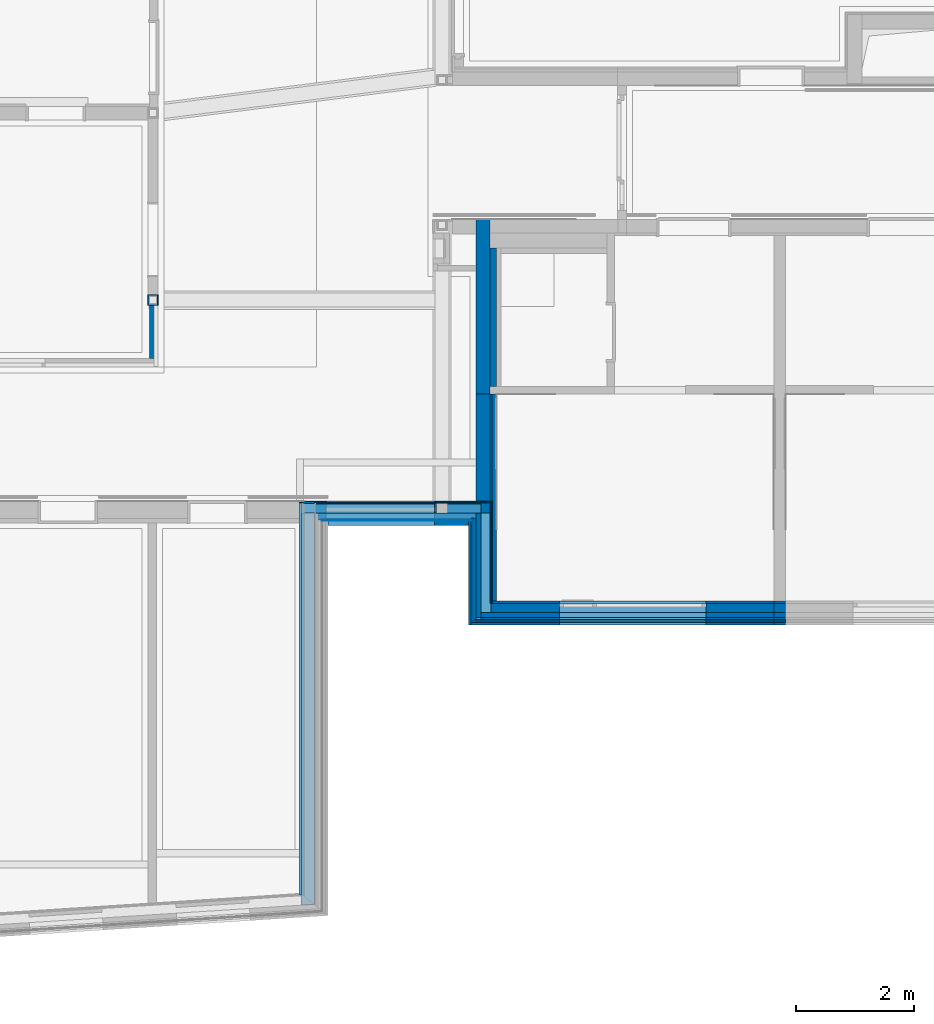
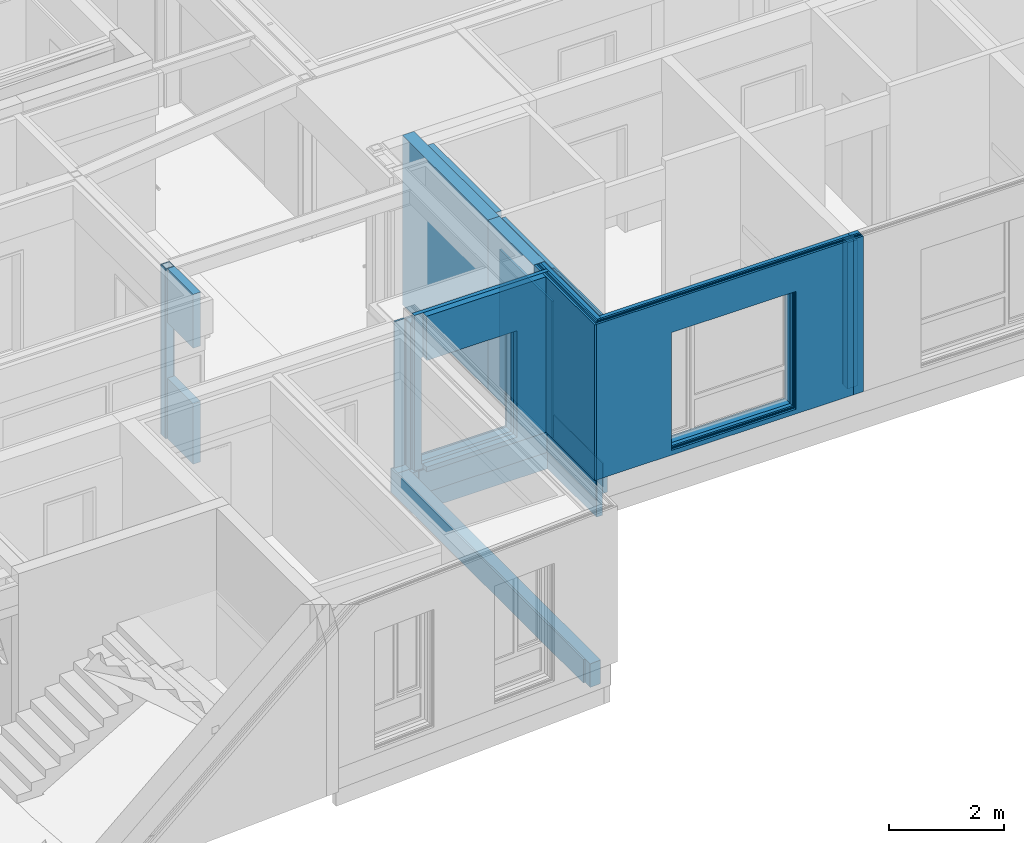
# One storey, part 43 of 207: 48 walls, 13 openings.
"""IFC4 building model written with IfcOpenShell, lengths in metres."""

from ifc_helpers import new_model, entity, si_unit, converted_unit, derived_unit, frame, frame_2d, origin, origin_with_axes, place, context, subcontext, project, spatial, polyline, rectangle, outline, extrude, clip, bounded_halfspace, material, element, save


model = new_model("IFC4")

# Units and contexts
model_context = context("Model", 3, precision=1e-05, world=origin())
body_context = subcontext(model_context, "Body", "Model", "MODEL_VIEW")
ifc_project = project(units=[si_unit("LENGTHUNIT", "METRE"), si_unit("AREAUNIT", "SQUARE_METRE"), si_unit("VOLUMEUNIT", "CUBIC_METRE"), si_unit("MASSUNIT", "GRAM", prefix="KILO"), converted_unit("PLANEANGLEUNIT", "DEGREE", entity("IfcPlaneAngleMeasure", 0.0174532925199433), si_unit("PLANEANGLEUNIT", "RADIAN"), dimensions=[0, 0, 0, 0, 0, 0, 0]), derived_unit("THERMALTRANSMITTANCEUNIT", [(si_unit("POWERUNIT", "WATT"), 1), (si_unit("THERMODYNAMICTEMPERATUREUNIT", "KELVIN"), -1), (si_unit("LENGTHUNIT", "METRE"), -2)]), derived_unit("VOLUMETRICFLOWRATEUNIT", [(si_unit("LENGTHUNIT", "METRE"), 3), (converted_unit("TIMEUNIT", "hour", entity("IfcTimeMeasure", 3600.0), si_unit("TIMEUNIT", "SECOND"), dimensions=[0, 0, 1, 0, 0, 0, 0]), -1), (si_unit("LENGTHUNIT", "METRE"), -1)])], contexts=[model_context])

# Site, building, storey
site_placement = place(None, origin())
site = spatial("IfcSite", under=ifc_project, at=site_placement, Name="Psychiatrie Neubau Wunstorf", CompositionType="ELEMENT")
building_placement = place(site_placement, origin())
building = spatial("IfcBuilding", under=site, at=building_placement, Name="Neubau H2 Stationsgebäude", CompositionType="ELEMENT")
storey_placement = place(building_placement, frame((0.0, 0.0, -0.2)))
storey = spatial("IfcBuildingStorey", under=building, at=storey_placement, Name="H2 Ebene 0", CompositionType="ELEMENT", Elevation=-0.2)

# Walls
ifc_material_1 = material(Name="WA-LB")
wall_1_placement = place(storey_placement, frame((68.0875, 0.536002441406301, 0.5), z_axis=(0.0, 0.0, 1.0), x_axis=(-1.0, 0.0, 0.0)))
element("IfcWall", 1, at=wall_1_placement, inside=storey, material=ifc_material_1, context=body_context, shape_type="SweptSolid", body=[
    extrude(rectangle(XDim=0.199, YDim=0.036, at=frame_2d((0.0995, 0.018), x_axis=(1.0, 0.0))), origin_with_axes(), (0.0, 0.0, 1.0), 3.1),
])
ifc_material_2 = material(Name="WA-LB")
wall_2_placement = place(storey_placement, frame((76.1, -1.16399999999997, 0.5), z_axis=(0.0, 0.0, 1.0), x_axis=(-1.0, 0.0, 0.0)))
element("IfcWall", 2, at=wall_2_placement, inside=storey, material=ifc_material_2, context=body_context, shape_type="SweptSolid", body=[
    extrude(rectangle(XDim=0.2, YDim=0.036, at=frame_2d((0.1, 0.018), x_axis=(1.0, 0.0))), origin_with_axes(), (0.0, 0.0, 1.0), 3.1),
])
ifc_material_3 = material(Name="WA-HD")
wall_3_placement = place(storey_placement, frame((76.1, -1.19999999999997, 0.5), z_axis=(0.0, 0.0, 1.0), x_axis=(-1.0, 0.0, 0.0)))
element("IfcWall", 3, at=wall_3_placement, inside=storey, material=ifc_material_3, context=body_context, shape_type="SweptSolid", body=[
    extrude(rectangle(XDim=0.2, YDim=0.16, at=frame_2d((0.1, 0.08), x_axis=(1.0, 0.0))), origin_with_axes(), (0.0, 0.0, 1.0), 3.1),
])
ifc_material_4 = material(Name="WA-DL")
wall_4_placement = place(storey_placement, frame((76.1, -1.35999999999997, 0.5), z_axis=(0.0, 0.0, 1.0), x_axis=(-1.0, 0.0, 0.0)))
element("IfcWall", 4, at=wall_4_placement, inside=storey, material=ifc_material_4, context=body_context, shape_type="SweptSolid", body=[
    extrude(rectangle(XDim=0.2, YDim=0.08, at=frame_2d((0.1, 0.04), x_axis=(1.0, 0.0))), origin_with_axes(), (0.0, 0.0, 1.0), 3.3),
])
ifc_material_5 = material(Name="WA-TP")
wall_5_placement = place(storey_placement, frame((76.1, -1.43999999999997, 0.5), z_axis=(0.0, 0.0, 1.0), x_axis=(-1.0, 0.0, 0.0)))
element("IfcWall", 5, at=wall_5_placement, inside=storey, material=ifc_material_5, context=body_context, shape_type="SweptSolid", body=[
    extrude(rectangle(XDim=0.2, YDim=0.036, at=frame_2d((0.1, 0.018), x_axis=(1.0, 0.0))), origin_with_axes(), (0.0, 0.0, 1.0), 3.3),
])
ifc_material_6 = material(Name="WA-KL")
wall_6_placement = place(storey_placement, frame((76.1, -1.47599999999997, 0.5), z_axis=(0.0, 0.0, 1.0), x_axis=(-1.0, 0.0, 0.0)))
element("IfcWall", 6, at=wall_6_placement, inside=storey, material=ifc_material_6, context=body_context, shape_type="SweptSolid", body=[
    extrude(rectangle(XDim=0.2, YDim=0.024, at=frame_2d((0.1, 0.012), x_axis=(1.0, 0.0))), origin_with_axes(), (0.0, 0.0, 1.0), 3.3),
])
ifc_material_7 = material(Name="WA-TL")
wall_7_placement = place(storey_placement, frame((76.1, -1.49999999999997, 0.5), z_axis=(0.0, 0.0, 1.0), x_axis=(-1.0, 0.0, 0.0)))
element("IfcWall", 7, at=wall_7_placement, inside=storey, material=ifc_material_7, context=body_context, shape_type="SweptSolid", body=[
    extrude(rectangle(XDim=0.2, YDim=0.024, at=frame_2d((0.1, 0.012), x_axis=(1.0, 0.0))), origin_with_axes(), (0.0, 0.0, 1.0), 3.3),
])
ifc_material_8 = material(Name="WA-HS")
wall_8_placement = place(storey_placement, frame((76.1, -1.52399999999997, 0.5), z_axis=(0.0, 0.0, 1.0), x_axis=(-1.0, 0.0, 0.0)))
element("IfcWall", 8, at=wall_8_placement, inside=storey, material=ifc_material_8, context=body_context, shape_type="SweptSolid", body=[
    extrude(rectangle(XDim=0.2, YDim=0.042, at=frame_2d((0.1, 0.021), x_axis=(1.0, 0.0))), origin_with_axes(), (0.0, 0.0, 1.0), 3.3),
])

# Wall, opening
ifc_material_9 = material(Name="WA-LB")
wall_9_placement = place(storey_placement, frame((75.9, -1.16399999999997, 0.5), z_axis=(0.0, 0.0, 1.0), x_axis=(-1.0, -1.5193062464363e-15, 0.0)))
wall_9 = element("IfcWall", 9, at=wall_9_placement, inside=storey, material=ifc_material_9, context=body_context, shape_type="SweptSolid", body=[
    extrude(rectangle(XDim=4.78899999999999, YDim=0.036, at=frame_2d((2.39449999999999, 0.018), x_axis=(1.0, 0.0))), origin_with_axes(), (0.0, 0.0, 1.0), 3.1),
])
opening_1_placement = place(wall_9_placement, frame((1.14999995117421, 0.0, 0.1), z_axis=(0.0, 1.0, 0.0), x_axis=(0.0, 0.0, 1.0)))
element("IfcOpeningElement", 10, at=opening_1_placement, cuts=wall_9, Name="Fensteröffnung", ObjectType="Opening", context=body_context, shape_type="SweptSolid", body=[
    extrude(outline(polyline([(2.5, 2.5), (2.5, 0.0), (0.0, 0.0), (0.0, 2.5), (2.5, 2.5)])), origin_with_axes(), (0.0, 0.0, 1.0), 0.036),
])

ifc_material_10 = material(Name="WA-HD")
wall_10_placement = place(storey_placement, frame((75.9, -1.19999999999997, 0.5), z_axis=(0.0, 0.0, 1.0), x_axis=(-1.0, -1.50797048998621e-15, 0.0)))
wall_10 = element("IfcWall", 11, at=wall_10_placement, inside=storey, material=ifc_material_10, context=body_context, shape_type="SweptSolid", body=[
    extrude(rectangle(XDim=4.82499999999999, YDim=0.16, at=frame_2d((2.41249999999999, 0.08), x_axis=(1.0, 0.0))), origin_with_axes(), (0.0, 0.0, 1.0), 3.1),
])
opening_2_placement = place(wall_10_placement, frame((1.14999995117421, 0.0, 0.1), z_axis=(1.4210854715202e-15, 1.0, 0.0), x_axis=(0.0, 0.0, 1.0)))
element("IfcOpeningElement", 12, at=opening_2_placement, cuts=wall_10, Name="Fensteröffnung", ObjectType="Opening", context=body_context, shape_type="SweptSolid", body=[
    extrude(outline(polyline([(2.5, 2.5), (2.5, 0.0), (0.0, 0.0), (0.0, 2.5), (2.5, 2.5)])), origin_with_axes(), (0.0, 0.0, 1.0), 0.16),
])

ifc_material_11 = material(Name="WA-DL")
wall_11_placement = place(storey_placement, frame((75.9, -1.35999999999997, 0.5), z_axis=(0.0, 0.0, 1.0), x_axis=(-1.0, -1.50518180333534e-15, 0.0)))
wall_11 = element("IfcWall", 13, at=wall_11_placement, inside=storey, material=ifc_material_11, context=body_context, shape_type="SweptSolid", body=[
    extrude(rectangle(XDim=4.98499999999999, YDim=0.08, at=frame_2d((2.49249999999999, 0.04), x_axis=(1.0, 0.0))), origin_with_axes(), (0.0, 0.0, 1.0), 3.3),
])
opening_3_placement = place(wall_11_placement, frame((1.14999995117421, 0.0, 0.1), z_axis=(2.8421709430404e-15, 1.0, 0.0), x_axis=(0.0, 0.0, 1.0)))
element("IfcOpeningElement", 14, at=opening_3_placement, cuts=wall_11, Name="Fensteröffnung", ObjectType="Opening", context=body_context, shape_type="SweptSolid", body=[
    extrude(outline(polyline([(2.5, 2.5), (2.5, 0.0), (0.0, 0.0), (0.0, 2.5), (2.5, 2.5)])), origin_with_axes(), (0.0, 0.0, 1.0), 0.08),
])

ifc_material_12 = material(Name="WA-TP")
wall_12_placement = place(storey_placement, frame((75.9, -1.43999999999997, 0.5), z_axis=(0.0, 0.0, 1.0), x_axis=(-1.0, -1.52629910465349e-15, 0.0)))
wall_12 = element("IfcWall", 15, at=wall_12_placement, inside=storey, material=ifc_material_12, context=body_context, shape_type="SweptSolid", body=[
    extrude(rectangle(XDim=5.06499999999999, YDim=0.036, at=frame_2d((2.53249999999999, 0.018), x_axis=(1.0, 0.0))), origin_with_axes(), (0.0, 0.0, 1.0), 3.3),
])
opening_4_placement = place(wall_12_placement, frame((1.14999995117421, 0.0, 0.1), z_axis=(0.0, 1.0, 0.0), x_axis=(0.0, 0.0, 1.0)))
element("IfcOpeningElement", 16, at=opening_4_placement, cuts=wall_12, Name="Fensteröffnung", ObjectType="Opening", context=body_context, shape_type="SweptSolid", body=[
    extrude(outline(polyline([(2.5, 2.5), (2.5, 0.0), (0.0, 0.0), (0.0, 2.5), (2.5, 2.5)])), origin_with_axes(), (0.0, 0.0, 1.0), 0.036),
])

ifc_material_13 = material(Name="WA-KL")
wall_13_placement = place(storey_placement, frame((75.9, -1.47599999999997, 0.5), z_axis=(0.0, 0.0, 1.0), x_axis=(-1.0, -1.51552734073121e-15, 0.0)))
wall_13 = element("IfcWall", 17, at=wall_13_placement, inside=storey, material=ifc_material_13, context=body_context, shape_type="SweptSolid", body=[
    extrude(rectangle(XDim=5.10099999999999, YDim=0.024, at=frame_2d((2.55049999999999, 0.012), x_axis=(1.0, 0.0))), origin_with_axes(), (0.0, 0.0, 1.0), 3.3),
])
opening_5_placement = place(wall_13_placement, frame((1.14999995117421, 0.0, 0.1), z_axis=(0.0, 1.0, 0.0), x_axis=(0.0, 0.0, 1.0)))
element("IfcOpeningElement", 18, at=opening_5_placement, cuts=wall_13, Name="Fensteröffnung", ObjectType="Opening", context=body_context, shape_type="SweptSolid", body=[
    extrude(outline(polyline([(2.5, 2.5), (2.5, 0.0), (0.0, 0.0), (0.0, 2.5), (2.5, 2.5)])), origin_with_axes(), (0.0, 0.0, 1.0), 0.024),
])

ifc_material_14 = material(Name="WA-TL")
wall_14_placement = place(storey_placement, frame((75.9, -1.49999999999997, 0.5), z_axis=(0.0, 0.0, 1.0), x_axis=(-1.0, -1.50843023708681e-15, 0.0)))
wall_14 = element("IfcWall", 19, at=wall_14_placement, inside=storey, material=ifc_material_14, context=body_context, shape_type="SweptSolid", body=[
    extrude(rectangle(XDim=5.12499999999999, YDim=0.024, at=frame_2d((2.56249999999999, 0.012), x_axis=(1.0, 0.0))), origin_with_axes(), (0.0, 0.0, 1.0), 3.3),
])
opening_6_placement = place(wall_14_placement, frame((1.14999995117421, 0.0, 0.1), z_axis=(0.0, 1.0, 0.0), x_axis=(0.0, 0.0, 1.0)))
element("IfcOpeningElement", 20, at=opening_6_placement, cuts=wall_14, Name="Fensteröffnung", ObjectType="Opening", context=body_context, shape_type="SweptSolid", body=[
    extrude(outline(polyline([(2.5, 2.5), (2.5, 0.0), (0.0, 0.0), (0.0, 2.5), (2.5, 2.5)])), origin_with_axes(), (0.0, 0.0, 1.0), 0.024),
])

ifc_material_15 = material(Name="WA-HS")
wall_15_placement = place(storey_placement, frame((75.9, -1.52399999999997, 0.5), z_axis=(0.0, 0.0, 1.0), x_axis=(-1.0, -1.50139929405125e-15, 0.0)))
wall_15 = element("IfcWall", 21, at=wall_15_placement, inside=storey, material=ifc_material_15, context=body_context, shape_type="SweptSolid", body=[
    extrude(rectangle(XDim=5.14899999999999, YDim=0.042, at=frame_2d((2.57449999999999, 0.021), x_axis=(1.0, 0.0))), origin_with_axes(), (0.0, 0.0, 1.0), 3.3),
])
opening_7_placement = place(wall_15_placement, frame((1.14999995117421, 0.0, 0.1), z_axis=(0.0, 1.0, 0.0), x_axis=(0.0, 0.0, 1.0)))
element("IfcOpeningElement", 22, at=opening_7_placement, cuts=wall_15, Name="Fensteröffnung", ObjectType="Opening", context=body_context, shape_type="SweptSolid", body=[
    extrude(outline(polyline([(2.5, 2.5), (2.5, 0.0), (0.0, 0.0), (0.0, 2.5), (2.5, 2.5)])), origin_with_axes(), (0.0, 0.0, 1.0), 0.042),
])

# Walls
ifc_material_16 = material(Name="WA-LB")
wall_16_placement = place(storey_placement, frame((71.111, -1.19999999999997, 0.5), z_axis=(0.0, 0.0, 1.0), x_axis=(0.0, 1.0, 0.0)))
element("IfcWall", 23, at=wall_16_placement, inside=storey, material=ifc_material_16, context=body_context, shape_type="SweptSolid", body=[
    extrude(rectangle(XDim=1.73600244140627, YDim=0.036, at=frame_2d((0.868001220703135, 0.018), x_axis=(1.0, 0.0))), origin_with_axes(), (0.0, 0.0, 1.0), 3.1),
])
ifc_material_17 = material(Name="WA-HD")
wall_17_placement = place(storey_placement, frame((71.075, -1.35999999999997, 0.5), z_axis=(0.0, 0.0, 1.0), x_axis=(0.0, 1.0, 0.0)))
element("IfcWall", 24, at=wall_17_placement, inside=storey, material=ifc_material_17, context=body_context, shape_type="SweptSolid", body=[
    extrude(rectangle(XDim=1.89600244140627, YDim=0.16, at=frame_2d((0.948001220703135, 0.08), x_axis=(1.0, 0.0))), origin_with_axes(), (0.0, 0.0, 1.0), 3.1),
])
ifc_material_18 = material(Name="WA-DL")
wall_18_placement = place(storey_placement, frame((70.915, -1.43999999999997, 0.5), z_axis=(0.0, 0.0, 1.0), x_axis=(0.0, 1.0, 0.0)))
element("IfcWall", 25, at=wall_18_placement, inside=storey, material=ifc_material_18, context=body_context, shape_type="Clipping", body=[
    clip(extrude(rectangle(XDim=1.97600244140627, YDim=0.08, at=frame_2d((0.988001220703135, 0.04), x_axis=(1.0, 0.0))), origin_with_axes(), (0.0, 0.0, 1.0), 3.3), bounded_halfspace(frame((1.84750244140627, 0.04, 3.1), z_axis=(0.0, 0.0, 1.0), x_axis=(0.0, 1.0, 0.0)), True, origin_with_axes(), polyline([(1.92750244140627, 0.0), (1.92750244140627, 0.08), (1.76750244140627, 0.08), (1.76750244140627, 0.0), (1.92750244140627, 0.0)]))),
])
ifc_material_19 = material(Name="WA-TP")
wall_19_placement = place(storey_placement, frame((70.835, -1.47599999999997, 0.5), z_axis=(0.0, 0.0, 1.0), x_axis=(0.0, 1.0, 0.0)))
element("IfcWall", 26, at=wall_19_placement, inside=storey, material=ifc_material_19, context=body_context, shape_type="Clipping", body=[
    clip(extrude(rectangle(XDim=1.72350294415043, YDim=0.036, at=frame_2d((0.861751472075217, 0.018), x_axis=(1.0, 0.0))), origin_with_axes(), (0.0, 0.0, 1.0), 3.3), bounded_halfspace(frame((1.90775244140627, 0.018, 3.1), z_axis=(1.0905212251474e-15, 6.31593542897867e-15, 1.0), x_axis=(0.0, 1.0, 0.0)), True, origin_with_axes(), polyline([(2.01200244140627, 0.0), (2.01200244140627, 0.036), (1.80350244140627, 0.036), (1.80350244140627, 0.0), (2.01200244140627, 0.0)]))),
    clip(extrude(rectangle(XDim=0.2085, YDim=0.036, at=frame_2d((0.10425, 0.018), x_axis=(1.0, 0.0))), frame((1.80350244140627, 0.0, 0.0), z_axis=(0.0, 0.0, 1.0), x_axis=(1.0, 0.0, 0.0)), (0.0, 0.0, 1.0), 3.3), bounded_halfspace(frame((1.90775244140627, 0.018, 3.1), z_axis=(1.0905212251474e-15, 6.31593542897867e-15, 1.0), x_axis=(0.0, 1.0, 0.0)), True, origin_with_axes(), polyline([(2.01200244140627, 0.0), (2.01200244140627, 0.036), (1.80350244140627, 0.036), (1.80350244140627, 0.0), (2.01200244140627, 0.0)]))),
])
ifc_material_20 = material(Name="WA-KL")
wall_20_placement = place(storey_placement, frame((70.799, -1.49999999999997, 0.5), z_axis=(0.0, 0.0, 1.0), x_axis=(0.0, 1.0, 0.0)))
element("IfcWall", 27, at=wall_20_placement, inside=storey, material=ifc_material_20, context=body_context, shape_type="Clipping", body=[
    clip(extrude(rectangle(XDim=1.74750294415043, YDim=0.024, at=frame_2d((0.873751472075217, 0.012), x_axis=(1.0, 0.0))), origin_with_axes(), (0.0, 0.0, 1.0), 3.3), bounded_halfspace(frame((1.93175244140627, 0.012, 3.1), z_axis=(1.0905212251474e-15, 9.473903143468e-15, 1.0), x_axis=(1.0, 0.0, -2.18104245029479e-15)), True, origin_with_axes(), polyline([(1.82750244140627, 0.0), (2.03600244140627, 0.0), (2.03600244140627, 0.024), (1.82750244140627, 0.024), (1.82750244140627, 0.0)]))),
    clip(extrude(rectangle(XDim=0.2085, YDim=0.024, at=frame_2d((0.10425, 0.012), x_axis=(1.0, 0.0))), frame((1.82750244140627, 0.0, 0.0), z_axis=(0.0, 0.0, 1.0), x_axis=(1.0, 0.0, 0.0)), (0.0, 0.0, 1.0), 3.3), bounded_halfspace(frame((1.93175244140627, 0.012, 3.1), z_axis=(1.0905212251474e-15, 9.473903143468e-15, 1.0), x_axis=(1.0, 0.0, -2.18104245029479e-15)), True, origin_with_axes(), polyline([(1.82750244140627, 0.0), (2.03600244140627, 0.0), (2.03600244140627, 0.024), (1.82750244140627, 0.024), (1.82750244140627, 0.0)]))),
])
ifc_material_21 = material(Name="WA-TL")
wall_21_placement = place(storey_placement, frame((70.775, -1.52399999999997, 0.5), z_axis=(0.0, 0.0, 1.0), x_axis=(0.0, 1.0, 0.0)))
element("IfcWall", 28, at=wall_21_placement, inside=storey, material=ifc_material_21, context=body_context, shape_type="Clipping", body=[
    clip(extrude(rectangle(XDim=1.77150294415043, YDim=0.024, at=frame_2d((0.885751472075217, 0.012), x_axis=(1.0, 0.0))), origin_with_axes(), (0.0, 0.0, 1.0), 3.3), bounded_halfspace(frame((1.95575244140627, 0.012, 3.1), z_axis=(-1.0905212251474e-15, 9.473903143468e-15, 1.0), x_axis=(1.0, 0.0, 2.18104245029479e-15)), True, origin_with_axes(), polyline([(1.85150244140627, 0.0), (2.06000244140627, 0.0), (2.06000244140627, 0.024), (1.85150244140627, 0.024), (1.85150244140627, 0.0)]))),
    clip(extrude(rectangle(XDim=0.024, YDim=0.2085, at=frame_2d((-0.10425, 0.012), x_axis=(0.0, 1.0))), frame((2.06000244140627, 0.0, 0.0), z_axis=(0.0, 0.0, 1.0), x_axis=(1.0, 0.0, 0.0)), (0.0, 0.0, 1.0), 3.3), bounded_halfspace(frame((1.95575244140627, 0.012, 3.1), z_axis=(-1.0905212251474e-15, 9.473903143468e-15, 1.0), x_axis=(1.0, 0.0, 2.18104245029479e-15)), True, origin_with_axes(), polyline([(1.85150244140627, 0.0), (2.06000244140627, 0.0), (2.06000244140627, 0.024), (1.85150244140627, 0.024), (1.85150244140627, 0.0)]))),
])
ifc_material_22 = material(Name="WA-HS")
wall_22_placement = place(storey_placement, frame((70.751, -1.56599999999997, 0.5), z_axis=(0.0, 0.0, 1.0), x_axis=(0.0, 1.0, 0.0)))
element("IfcWall", 29, at=wall_22_placement, inside=storey, material=ifc_material_22, context=body_context, shape_type="Clipping", body=[
    clip(extrude(rectangle(XDim=1.81350294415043, YDim=0.042, at=frame_2d((0.906751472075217, 0.021), x_axis=(1.0, 0.0))), origin_with_axes(), (0.0, 0.0, 1.0), 3.3), bounded_halfspace(frame((1.99775244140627, 0.021, 3.1), z_axis=(-1.0905212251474e-15, 5.41365893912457e-15, 1.0), x_axis=(0.0, 1.0, -1.08273178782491e-14)), True, origin_with_axes(), polyline([(2.10200244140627, 0.0), (2.10200244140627, 0.042), (1.89350244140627, 0.042), (1.89350244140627, 0.0), (2.10200244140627, 0.0)]))),
    clip(extrude(rectangle(XDim=0.042, YDim=0.2085, at=frame_2d((-0.10425, 0.021), x_axis=(0.0, 1.0))), frame((2.10200244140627, 0.0, 0.0), z_axis=(0.0, 0.0, 1.0), x_axis=(1.0, 0.0, 0.0)), (0.0, 0.0, 1.0), 3.3), bounded_halfspace(frame((1.99775244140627, 0.021, 3.1), z_axis=(-1.0905212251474e-15, 5.41365893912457e-15, 1.0), x_axis=(0.0, 1.0, -1.08273178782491e-14)), True, origin_with_axes(), polyline([(2.10200244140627, 0.0), (2.10200244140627, 0.042), (1.89350244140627, 0.042), (1.89350244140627, 0.0), (2.10200244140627, 0.0)]))),
])
ifc_material_23 = material(Name="WI-GKF")
wall_23_placement = place(storey_placement, frame((70.1289999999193, 0.499996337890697, 0.5), z_axis=(0.0, 0.0, 1.0), x_axis=(0.0, -1.0, 0.0)))
element("IfcWall", 30, at=wall_23_placement, inside=storey, material=ifc_material_23, context=body_context, shape_type="SweptSolid", body=[
    extrude(rectangle(XDim=0.16, YDim=0.036, at=frame_2d((0.08, 0.018), x_axis=(1.0, 0.0))), origin_with_axes(), (0.0, 0.0, 1.0), 3.1),
])

# Wall, opening
ifc_material_24 = material(Name="WA-LB")
wall_24_placement = place(storey_placement, frame((70.835, 0.536002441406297, 0.5), z_axis=(0.0, 0.0, 1.0), x_axis=(-1.0, 3.74997815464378e-16, 0.0)))
wall_24 = element("IfcWall", 31, at=wall_24_placement, inside=storey, material=ifc_material_24, context=body_context, shape_type="SweptSolid", body=[
    extrude(rectangle(XDim=2.72849999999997, YDim=0.0125, at=frame_2d((1.36424999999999, 0.00625), x_axis=(1.0, 0.0))), origin_with_axes(), (0.0, 0.0, 1.0), 3.1),
])
opening_8_placement = place(wall_24_placement, frame((2.55400500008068, 0.0125, 0.1), z_axis=(0.0, -1.0, 0.0), x_axis=(0.0, 0.0, 1.0)))
element("IfcOpeningElement", 32, at=opening_8_placement, cuts=wall_24, Name="Fensteröffnung", ObjectType="Opening", context=body_context, shape_type="SweptSolid", body=[
    extrude(outline(polyline([(2.26, 1.848005), (2.26, 0.0), (0.0, 0.0), (0.0, 1.848005), (2.26, 1.848005)])), origin_with_axes(), (0.0, 0.0, 1.0), 0.0125),
])

ifc_material_25 = material(Name="WA-LB")
wall_25_placement = place(storey_placement, frame((70.835, 0.523502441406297, 0.5), z_axis=(0.0, 0.0, 1.0), x_axis=(-1.0, 3.74997815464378e-16, 0.0)))
wall_25 = element("IfcWall", 33, at=wall_25_placement, inside=storey, material=ifc_material_25, context=body_context, shape_type="SweptSolid", body=[
    extrude(outline(polyline([(-2.72849999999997, -0.0360000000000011), (0.0, -0.0360000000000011), (0.0, 0.0), (-2.0224999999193, 0.0), (-2.0224999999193, -0.0124938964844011), (-2.0584999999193, -0.0124938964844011), (-2.0584999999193, -0.0125000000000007), (-2.23849999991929, -0.0125000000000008), (-2.23849999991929, 0.0), (-2.72849999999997, 0.0), (-2.72849999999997, -0.0360000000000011)])), frame((2.72849999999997, 0.0360000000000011, 0.0), z_axis=(0.0, 0.0, 1.0), x_axis=(1.0, 0.0, 0.0)), (0.0, 0.0, 1.0), 3.1),
])
opening_9_placement = place(wall_25_placement, frame((2.55400500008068, 0.0360000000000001, 0.1), z_axis=(0.0, -1.0, 0.0), x_axis=(0.0, 0.0, 1.0)))
element("IfcOpeningElement", 34, at=opening_9_placement, cuts=wall_25, Name="Fensteröffnung", ObjectType="Opening", context=body_context, shape_type="SweptSolid", body=[
    extrude(outline(polyline([(2.26, 1.848005), (2.26, 0.0), (0.0, 0.0), (0.0, 1.848005), (2.26, 1.848005)])), origin_with_axes(), (0.0, 0.0, 1.0), 0.0360000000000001),
])

ifc_material_26 = material(Name="WA-HD")
wall_26_placement = place(storey_placement, frame((70.915, 0.487502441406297, 0.5), z_axis=(0.0, 0.0, 1.0), x_axis=(-1.0, 3.4407624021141e-16, 0.0)))
wall_26 = element("IfcWall", 35, at=wall_26_placement, inside=storey, material=ifc_material_26, context=body_context, shape_type="SweptSolid", body=[
    extrude(outline(polyline([(-2.0224999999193, -0.160000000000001), (0.0, -0.160000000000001), (0.0, 0.0), (-2.80849999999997, 0.0), (-2.80849999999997, -0.160000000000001), (-2.23849999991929, -0.160000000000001), (-2.23849999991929, -0.0125000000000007), (-2.0584999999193, -0.0125000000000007), (-2.0584999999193, -0.012493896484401), (-2.0224999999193, -0.012493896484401), (-2.0224999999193, -0.160000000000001)])), frame((2.80849999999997, 0.160000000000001, 0.0), z_axis=(0.0, 0.0, 1.0), x_axis=(1.0, 0.0, 0.0)), (0.0, 0.0, 1.0), 3.1),
])
opening_10_placement = place(wall_26_placement, frame((2.63400500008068, 0.16, 0.1), z_axis=(0.0, -1.0, 0.0), x_axis=(0.0, 0.0, 1.0)))
element("IfcOpeningElement", 36, at=opening_10_placement, cuts=wall_26, Name="Fensteröffnung", ObjectType="Opening", context=body_context, shape_type="SweptSolid", body=[
    extrude(outline(polyline([(2.26, 1.848005), (2.26, 0.0), (0.0, 0.0), (0.0, 1.848005), (2.26, 1.848005)])), origin_with_axes(), (0.0, 0.0, 1.0), 0.16),
])

ifc_material_27 = material(Name="WA-DL")
wall_27_placement = place(storey_placement, frame((70.835, 0.327502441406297, 0.5), z_axis=(0.0, 0.0, 1.0), x_axis=(-1.0, 3.58899951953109e-16, 0.0)))
wall_27 = element("IfcWall", 37, at=wall_27_placement, inside=storey, material=ifc_material_27, context=body_context, shape_type="SweptSolid", body=[
    extrude(rectangle(XDim=2.69249999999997, YDim=0.0799994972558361, at=frame_2d((1.34624999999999, 0.0399997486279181), x_axis=(1.0, 0.0))), origin_with_axes(), (0.0, 0.0, 1.0), 3.3),
])
opening_11_placement = place(wall_27_placement, frame((2.55400500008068, 0.0799994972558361, 0.1), z_axis=(0.0, -1.0, 0.0), x_axis=(0.0, 0.0, 1.0)))
element("IfcOpeningElement", 38, at=opening_11_placement, cuts=wall_27, Name="Fensteröffnung", ObjectType="Opening", context=body_context, shape_type="SweptSolid", body=[
    extrude(outline(polyline([(2.26, 1.848005), (2.26, 0.0), (0.0, 0.0), (0.0, 1.848005), (2.26, 1.848005)])), origin_with_axes(), (0.0, 0.0, 1.0), 0.0799994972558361),
])

ifc_material_28 = material(Name="WA-LB")
wall_28_placement = place(storey_placement, frame((70.709, 0.247502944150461, 0.5), z_axis=(0.0, 0.0, 1.0), x_axis=(-1.0, 3.44217821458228e-16, 0.0)))
wall_28 = element("IfcWall", 39, at=wall_28_placement, inside=storey, material=ifc_material_28, context=body_context, shape_type="SweptSolid", body=[
    extrude(rectangle(XDim=2.39449999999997, YDim=0.126, at=frame_2d((1.19724999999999, 0.063), x_axis=(1.0, 0.0))), origin_with_axes(), (0.0, 0.0, 1.0), 3.3),
])
opening_12_placement = place(wall_28_placement, frame((2.39449999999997, 0.126, 0.1), z_axis=(0.0, -1.0, 0.0), x_axis=(0.0, 0.0, 1.0)))
element("IfcOpeningElement", 40, at=opening_12_placement, cuts=wall_28, Name="Fensteröffnung", ObjectType="Opening", context=body_context, shape_type="SweptSolid", body=[
    extrude(outline(polyline([(2.26, 1.8144999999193), (2.26, 0.0), (0.0, 0.0), (0.0, 1.8144999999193), (2.26, 1.8144999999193)])), origin_with_axes(), (0.0, 0.0, 1.0), 0.126),
])

# Walls
ifc_material_29 = material(Name="WA-LB")
wall_29_placement = place(storey_placement, frame((71.111, -1.18499999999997, 0.0), z_axis=(0.0, 0.0, 1.0), x_axis=(0.0, 1.0, 0.0)))
element("IfcWall", 41, at=wall_29_placement, inside=storey, material=ifc_material_29, context=body_context, shape_type="SweptSolid", body=[
    extrude(rectangle(XDim=1.70000244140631, YDim=0.021, at=frame_2d((0.850001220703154, 0.0105), x_axis=(1.0, 0.0))), origin_with_axes(), (0.0, 0.0, 1.0), 0.5),
])
ifc_material_30 = material(Name="WA-STB")
wall_30_placement = place(storey_placement, frame((71.09, -1.35999999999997, 0.0), z_axis=(0.0, 0.0, 1.0), x_axis=(0.0, 1.0, 0.0)))
element("IfcWall", 42, at=wall_30_placement, inside=storey, material=ifc_material_30, context=body_context, shape_type="SweptSolid", body=[
    extrude(rectangle(XDim=1.70000244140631, YDim=0.175, at=frame_2d((0.850001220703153, 0.0875), x_axis=(1.0, 0.0))), origin_with_axes(), (0.0, 0.0, 1.0), 0.5),
])
ifc_material_31 = material(Name="WA-DE")
wall_31_placement = place(storey_placement, frame((70.915, -1.47999999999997, -0.36), z_axis=(0.0, 0.0, 1.0), x_axis=(0.0, 1.0, 0.0)))
element("IfcWall", 43, at=wall_31_placement, inside=storey, material=ifc_material_31, context=body_context, shape_type="SweptSolid", body=[
    extrude(rectangle(XDim=1.7000024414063, YDim=0.12, at=frame_2d((0.850001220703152, 0.06), x_axis=(1.0, 0.0))), origin_with_axes(), (0.0, 0.0, 1.0), 0.86),
])
ifc_material_32 = material(Name="WA-LB")
wall_32_placement = place(storey_placement, frame((70.795, -1.49499999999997, 0.0), z_axis=(0.0, 0.0, 1.0), x_axis=(0.0, 1.0, 0.0)))
element("IfcWall", 44, at=wall_32_placement, inside=storey, material=ifc_material_32, context=body_context, shape_type="SweptSolid", body=[
    extrude(rectangle(XDim=1.7000024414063, YDim=0.015, at=frame_2d((0.850001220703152, 0.0075), x_axis=(1.0, 0.0))), origin_with_axes(), (0.0, 0.0, 1.0), 0.5),
])
ifc_material_33 = material(Name="WA-LB")
wall_33_placement = place(storey_placement, frame((71.111, 0.536002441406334, 0.0), z_axis=(0.0, 0.0, 1.0), x_axis=(-1.0, -1.2885893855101e-14, 0.0)))
element("IfcWall", 45, at=wall_33_placement, inside=storey, material=ifc_material_33, context=body_context, shape_type="SweptSolid", body=[
    extrude(rectangle(XDim=3.28199999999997, YDim=0.0209999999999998, at=frame_2d((1.64099999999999, 0.0104999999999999), x_axis=(1.0, 0.0))), origin_with_axes(), (0.0, 0.0, 1.0), 0.5),
])
ifc_material_34 = material(Name="WA-STB")
wall_34_placement = place(storey_placement, frame((71.09, 0.515002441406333, 0.0), z_axis=(0.0, 0.0, 1.0), x_axis=(-1.0, -1.28316306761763e-14, 0.0)))
element("IfcWall", 46, at=wall_34_placement, inside=storey, material=ifc_material_34, context=body_context, shape_type="SweptSolid", body=[
    extrude(rectangle(XDim=3.22499999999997, YDim=0.174999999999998, at=frame_2d((1.61249999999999, 0.0874999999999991), x_axis=(1.0, 0.0))), origin_with_axes(), (0.0, 0.0, 1.0), 0.5),
])
ifc_material_35 = material(Name="WA-DE")
wall_35_placement = place(storey_placement, frame((70.915, 0.340002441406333, -0.36), z_axis=(0.0, 0.0, 1.0), x_axis=(-1.0, -1.28148767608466e-14, 0.0)))
element("IfcWall", 47, at=wall_35_placement, inside=storey, material=ifc_material_35, context=body_context, shape_type="SweptSolid", body=[
    extrude(rectangle(XDim=2.82999999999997, YDim=0.12, at=frame_2d((1.41499999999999, 0.06), x_axis=(1.0, 0.0))), origin_with_axes(), (0.0, 0.0, 1.0), 0.86),
])
ifc_material_36 = material(Name="WA-LB")
wall_36_placement = place(storey_placement, frame((70.795, 0.220002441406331, 0.0), z_axis=(0.0, 0.0, 1.0), x_axis=(-1.0, -1.28172033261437e-14, 0.0)))
element("IfcWall", 48, at=wall_36_placement, inside=storey, material=ifc_material_36, context=body_context, shape_type="SweptSolid", body=[
    extrude(rectangle(XDim=2.58999999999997, YDim=0.0150000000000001, at=frame_2d((1.29499999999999, 0.00750000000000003), x_axis=(1.0, 0.0))), origin_with_axes(), (0.0, 0.0, 1.0), 0.5),
])
ifc_material_37 = material(Name="WA-LB")
wall_37_placement = place(storey_placement, frame((67.829, 0.515002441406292, 0.0), z_axis=(0.0, 0.0, 1.0), x_axis=(0.0, -1.0, 0.0)))
element("IfcWall", 49, at=wall_37_placement, inside=storey, material=ifc_material_37, context=body_context, shape_type="SweptSolid", body=[
    extrude(outline(polyline([(-6.67767302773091, 0.0), (0.0, 0.0), (-0.00231186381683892, 0.036), (-6.67767302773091, 0.036), (-6.67767302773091, 0.0)])), frame((6.67767302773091, 0.0, 0.0), z_axis=(0.0, 0.0, 1.0), x_axis=(1.0, 0.0, 0.0)), (0.0, 0.0, 1.0), 0.5),
])
ifc_material_38 = material(Name="WA-STB")
wall_38_placement = place(storey_placement, frame((67.865, 0.340002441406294, 0.0), z_axis=(0.0, 0.0, 1.0), x_axis=(0.0, -1.0, 0.0)))
element("IfcWall", 50, at=wall_38_placement, inside=storey, material=ifc_material_38, context=body_context, shape_type="SweptSolid", body=[
    extrude(outline(polyline([(-6.67572164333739, 0.0), (0.0, 0.0), (-0.0141280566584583, 0.22), (-6.67572164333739, 0.22), (-6.67572164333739, 0.0)])), frame((6.67572164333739, 0.0, 0.0), z_axis=(0.0, 0.0, 1.0), x_axis=(1.0, 0.0, 0.0)), (0.0, 0.0, 1.0), 0.5),
])
ifc_material_39 = material(Name="WI-LB")
wall_39_placement = place(storey_placement, frame((71.1075, 0.53600244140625, 0.0), z_axis=(0.0, 0.0, 1.0), x_axis=(0.0, 1.0, 0.0)))
element("IfcWall", 51, at=wall_39_placement, inside=storey, material=ifc_material_39, context=body_context, shape_type="SweptSolid", body=[
    extrude(rectangle(XDim=1.82449755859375, YDim=0.04, at=frame_2d((0.912248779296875, 0.02), x_axis=(1.0, 0.0))), origin_with_axes(), (0.0, 0.0, 1.0), 2.9),
])
ifc_material_40 = material(Name="WI-HW 60")
wall_40_placement = place(storey_placement, frame((71.0675, 0.53600244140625, 0.0), z_axis=(0.0, 0.0, 1.0), x_axis=(0.0, 1.0, 0.0)))
element("IfcWall", 52, at=wall_40_placement, inside=storey, material=ifc_material_40, context=body_context, shape_type="SweptSolid", body=[
    extrude(rectangle(XDim=1.82449755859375, YDim=0.232, at=frame_2d((0.912248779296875, 0.116), x_axis=(1.0, 0.0))), origin_with_axes(), (0.0, 0.0, 1.0), 3.6),
])
ifc_material_41 = material(Name="WI-HW 60")
wall_41_placement = place(storey_placement, frame((71.0675, 2.3605, 0.0), z_axis=(0.0, 0.0, 1.0), x_axis=(0.0, 1.0, 0.0)))
element("IfcWall", 53, at=wall_41_placement, inside=storey, material=ifc_material_41, context=body_context, shape_type="SweptSolid", body=[
    extrude(rectangle(XDim=2.972, YDim=0.232, at=frame_2d((1.486, 0.116), x_axis=(1.0, 0.0))), origin_with_axes(), (0.0, 0.0, 1.0), 3.6),
])
ifc_material_42 = material(Name="Installationsraum")
wall_42_placement = place(storey_placement, frame((71.0675, 4.8505, 0.0), z_axis=(0.0, 0.0, 1.0), x_axis=(0.0, -1.0, 0.0)))
element("IfcWall", 54, at=wall_42_placement, inside=storey, material=ifc_material_42, context=body_context, shape_type="SweptSolid", body=[
    extrude(rectangle(XDim=2.365, YDim=0.115, at=frame_2d((1.1825, 0.0575), x_axis=(1.0, 0.0))), origin_with_axes(), (0.0, 0.0, 1.0), 3.6),
])
ifc_material_43 = material(Name="BS Beplankung")
wall_43_placement = place(storey_placement, frame((65.4049963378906, 4.02999694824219, 0.0), z_axis=(0.0, 0.0, 1.0), x_axis=(0.0, -1.0, 0.0)))
element("IfcWall", 55, at=wall_43_placement, inside=storey, material=ifc_material_43, context=body_context, shape_type="SweptSolid", body=[
    extrude(rectangle(XDim=0.16, YDim=0.02, at=frame_2d((0.08, 0.01), x_axis=(1.0, 0.0))), origin_with_axes(), (0.0, 0.0, 1.0), 3.6),
])
ifc_material_44 = material(Name="BS Beplankung")
wall_44_placement = place(storey_placement, frame((65.2649963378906, 3.88999694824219, 0.0), z_axis=(0.0, 0.0, 1.0), x_axis=(0.0, 1.0, 0.0)))
element("IfcWall", 56, at=wall_44_placement, inside=storey, material=ifc_material_44, context=body_context, shape_type="SweptSolid", body=[
    extrude(rectangle(XDim=0.14, YDim=0.02, at=frame_2d((0.07, 0.01), x_axis=(1.0, 0.0))), origin_with_axes(), (0.0, 0.0, 1.0), 3.6),
])
ifc_material_45 = material(Name="BS Beplankung")
wall_45_placement = place(storey_placement, frame((65.2449963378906, 4.02999694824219, 0.0)))
element("IfcWall", 57, at=wall_45_placement, inside=storey, material=ifc_material_45, context=body_context, shape_type="SweptSolid", body=[
    extrude(rectangle(XDim=0.18, YDim=0.02, at=frame_2d((0.09, 0.01), x_axis=(1.0, 0.0))), origin_with_axes(), (0.0, 0.0, 1.0), 3.6),
])
ifc_material_46 = material(Name="BS Beplankung")
wall_46_placement = place(storey_placement, frame((65.4049963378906, 3.88999694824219, 0.0), z_axis=(0.0, 0.0, 1.0), x_axis=(-1.0, 0.0, 0.0)))
element("IfcWall", 58, at=wall_46_placement, inside=storey, material=ifc_material_46, context=body_context, shape_type="SweptSolid", body=[
    extrude(rectangle(XDim=0.16, YDim=0.02, at=frame_2d((0.08, 0.01), x_axis=(1.0, 0.0))), origin_with_axes(), (0.0, 0.0, 1.0), 3.6),
])
ifc_material_47 = material(Name="WI-LB")
wall_47_placement = place(storey_placement, frame((71.1075, 2.3605, 0.0), z_axis=(0.0, 0.0, 1.0), x_axis=(0.0, -1.0, 0.0)))
element("IfcWall", 59, at=wall_47_placement, inside=storey, material=ifc_material_47, context=body_context, shape_type="SweptSolid", body=[
    extrude(rectangle(XDim=3.5245, YDim=0.075, at=frame_2d((1.76225, 0.0375), x_axis=(1.0, 0.0))), origin_with_axes(), (0.0, 0.0, 1.0), 3.55),
])

# Wall, opening
ifc_material_48 = material(Name="WI-RIR")
wall_48_placement = place(storey_placement, frame((65.4249963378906, 2.96750096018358, 0.0), z_axis=(0.0, 0.0, 1.0), x_axis=(0.0, 1.0, 0.0)))
wall_48 = element("IfcWall", 60, at=wall_48_placement, inside=storey, material=ifc_material_48, context=body_context, shape_type="SweptSolid", body=[
    extrude(outline(polyline([(0.0, -0.15), (0.902495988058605, -0.15), (0.902495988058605, 0.0), (3.80844783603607e-06, 0.0), (0.0, -0.15)])), frame((0.0, 0.15, 0.0), z_axis=(0.0, 0.0, 1.0), x_axis=(1.0, 0.0, 0.0)), (0.0, 0.0, 1.0), 3.6),
])
opening_13_placement = place(wall_48_placement, frame((-0.150000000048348, 0.0, 1.28)))
element("IfcOpeningElement", 61, at=opening_13_placement, cuts=wall_48, Name="Fensteröffnung", ObjectType="Opening", context=body_context, shape_type="SweptSolid", body=[
    extrude(outline(polyline([(0.0, 0.0), (1.05249598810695, 0.0), (1.05249598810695, 0.15), (3.80844783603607e-06, 0.15), (0.0, 0.0)])), origin_with_axes(), (0.0, 0.0, 1.0), 1.18),
])

save(model, "model.ifc")
